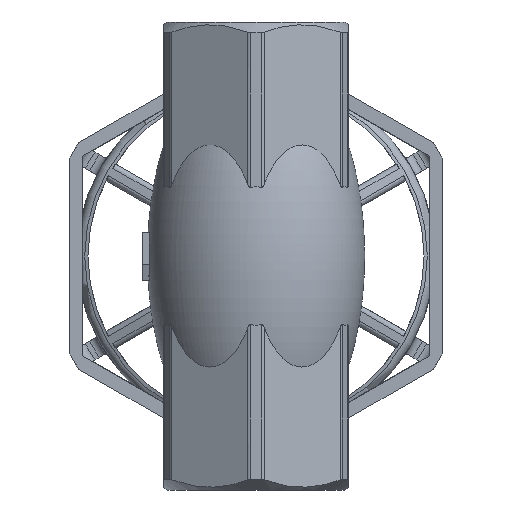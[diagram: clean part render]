
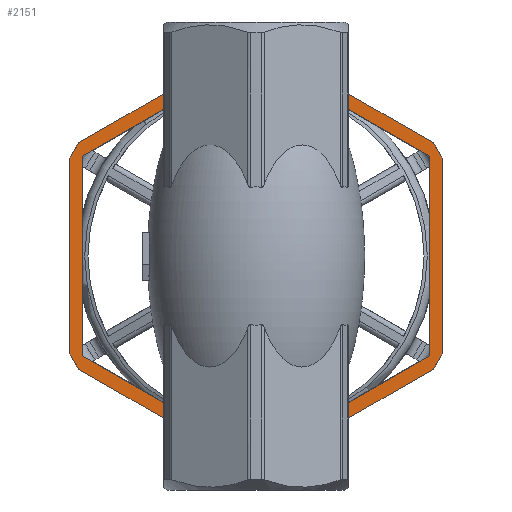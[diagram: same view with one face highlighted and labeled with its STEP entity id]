
A CAD part, front view. The second image highlights one B-rep face of the part: STEP entity #2151.
In plain terms, the highlighted planar face has unit normal (0, -1, 0).
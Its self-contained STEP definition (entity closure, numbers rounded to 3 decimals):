
#2151=ADVANCED_FACE('',(#6577,#6579),#6581,.T.);
#6577=FACE_BOUND('',#6578,.T.);
#6578=EDGE_LOOP('',(#8925,#8926,#8927,#8928,#8929,#8930,#8931,#8932,#8933,#8934,
#8935,#8936));
#6579=FACE_BOUND('',#6580,.T.);
#6580=EDGE_LOOP('',(#8937,#8938,#8939,#8940,#8941,#8942));
#6581=PLANE('',#6582);
#6582=AXIS2_PLACEMENT_3D('',#6583,#6584,#6585);
#6583=CARTESIAN_POINT('',(0.,127.25,-44.5));
#6584=DIRECTION('',(0.,-1.,0.));
#6585=DIRECTION('',(0.,0.,-1.));
#8925=ORIENTED_EDGE('',*,*,#10234,.T.);
#8926=ORIENTED_EDGE('',*,*,#10235,.T.);
#8927=ORIENTED_EDGE('',*,*,#10236,.T.);
#8928=ORIENTED_EDGE('',*,*,#10237,.T.);
#8929=ORIENTED_EDGE('',*,*,#10238,.T.);
#8930=ORIENTED_EDGE('',*,*,#10239,.T.);
#8931=ORIENTED_EDGE('',*,*,#10232,.T.);
#8932=ORIENTED_EDGE('',*,*,#10240,.T.);
#8933=ORIENTED_EDGE('',*,*,#10241,.T.);
#8934=ORIENTED_EDGE('',*,*,#10242,.T.);
#8935=ORIENTED_EDGE('',*,*,#10243,.T.);
#8936=ORIENTED_EDGE('',*,*,#10244,.T.);
#8937=ORIENTED_EDGE('',*,*,#10104,.T.);
#8938=ORIENTED_EDGE('',*,*,#10095,.T.);
#8939=ORIENTED_EDGE('',*,*,#10086,.T.);
#8940=ORIENTED_EDGE('',*,*,#10077,.T.);
#8941=ORIENTED_EDGE('',*,*,#10068,.T.);
#8942=ORIENTED_EDGE('',*,*,#10113,.T.);
#10068=EDGE_CURVE('',#11709,#11707,#11710,.F.);
#10077=EDGE_CURVE('',#11724,#11709,#11725,.F.);
#10086=EDGE_CURVE('',#11739,#11724,#11740,.F.);
#10095=EDGE_CURVE('',#11754,#11739,#11755,.F.);
#10104=EDGE_CURVE('',#11769,#11754,#11770,.F.);
#10113=EDGE_CURVE('',#11707,#11769,#11783,.F.);
#10232=EDGE_CURVE('',#11964,#11962,#11965,.T.);
#10234=EDGE_CURVE('',#11967,#11968,#11969,.T.);
#10235=EDGE_CURVE('',#11968,#11970,#11971,.T.);
#10236=EDGE_CURVE('',#11970,#11972,#11973,.T.);
#10237=EDGE_CURVE('',#11972,#11974,#11975,.T.);
#10238=EDGE_CURVE('',#11974,#11976,#11977,.T.);
#10239=EDGE_CURVE('',#11976,#11964,#11978,.T.);
#10240=EDGE_CURVE('',#11962,#11979,#11980,.T.);
#10241=EDGE_CURVE('',#11979,#11981,#11982,.T.);
#10242=EDGE_CURVE('',#11981,#11983,#11984,.T.);
#10243=EDGE_CURVE('',#11983,#11985,#11986,.T.);
#10244=EDGE_CURVE('',#11985,#11967,#11987,.T.);
#11707=VERTEX_POINT('',#22503);
#11709=VERTEX_POINT('',#22507);
#11710=LINE('',#22508,#22509);
#11724=VERTEX_POINT('',#22542);
#11725=LINE('',#22543,#22544);
#11739=VERTEX_POINT('',#22577);
#11740=LINE('',#22578,#22579);
#11754=VERTEX_POINT('',#22612);
#11755=LINE('',#22613,#22614);
#11769=VERTEX_POINT('',#22647);
#11770=LINE('',#22648,#22649);
#11783=LINE('',#22681,#22682);
#11962=VERTEX_POINT('',#24427);
#11964=VERTEX_POINT('',#24431);
#11965=LINE('',#24432,#24433);
#11967=VERTEX_POINT('',#24438);
#11968=VERTEX_POINT('',#24439);
#11969=LINE('',#24440,#24441);
#11970=VERTEX_POINT('',#24443);
#11971=CIRCLE('',#24444,40.);
#11972=VERTEX_POINT('',#24448);
#11973=LINE('',#24449,#24450);
#11974=VERTEX_POINT('',#24452);
#11975=CIRCLE('',#24453,40.);
#11976=VERTEX_POINT('',#24457);
#11977=LINE('',#24458,#24459);
#11978=CIRCLE('',#24461,40.);
#11979=VERTEX_POINT('',#24465);
#11980=CIRCLE('',#24466,40.);
#11981=VERTEX_POINT('',#24470);
#11982=LINE('',#24471,#24472);
#11983=VERTEX_POINT('',#24474);
#11984=CIRCLE('',#24475,40.);
#11985=VERTEX_POINT('',#24479);
#11986=LINE('',#24480,#24481);
#11987=CIRCLE('',#24483,40.);
#22503=CARTESIAN_POINT('',(0.,127.25,-82.5));
#22507=CARTESIAN_POINT('',(32.909,127.25,-63.5));
#22508=CARTESIAN_POINT('',(0.,127.25,-82.5));
#22509=VECTOR('',#22510,1.);
#22510=DIRECTION('',(0.866,0.,0.5));
#22542=CARTESIAN_POINT('',(32.909,127.25,-25.5));
#22543=CARTESIAN_POINT('',(32.909,127.25,-63.5));
#22544=VECTOR('',#22545,1.);
#22545=DIRECTION('',(0.,0.,1.));
#22577=CARTESIAN_POINT('',(0.,127.25,-6.5));
#22578=CARTESIAN_POINT('',(32.909,127.25,-25.5));
#22579=VECTOR('',#22580,1.);
#22580=DIRECTION('',(-0.866,0.,0.5));
#22612=CARTESIAN_POINT('',(-32.909,127.25,-25.5));
#22613=CARTESIAN_POINT('',(0.,127.25,-6.5));
#22614=VECTOR('',#22615,1.);
#22615=DIRECTION('',(-0.866,0.,-0.5));
#22647=CARTESIAN_POINT('',(-32.909,127.25,-63.5));
#22648=CARTESIAN_POINT('',(-32.909,127.25,-25.5));
#22649=VECTOR('',#22650,1.);
#22650=DIRECTION('',(0.,0.,-1.));
#22681=CARTESIAN_POINT('',(-32.909,127.25,-63.5));
#22682=VECTOR('',#22683,1.);
#22683=DIRECTION('',(0.866,0.,-0.5));
#24427=CARTESIAN_POINT('',(33.705,127.25,-66.041));
#24431=CARTESIAN_POINT('',(1.802,127.25,-84.459));
#24432=CARTESIAN_POINT('',(1.802,127.25,-84.459));
#24433=VECTOR('',#24434,1.);
#24434=DIRECTION('',(0.866,0.,0.5));
#24438=CARTESIAN_POINT('',(-1.802,127.25,-4.541));
#24439=CARTESIAN_POINT('',(-33.705,127.25,-22.959));
#24440=CARTESIAN_POINT('',(-1.802,127.25,-4.541));
#24441=VECTOR('',#24442,1.);
#24442=DIRECTION('',(-0.866,0.,-0.5));
#24443=CARTESIAN_POINT('',(-35.507,127.25,-26.081));
#24444=AXIS2_PLACEMENT_3D('',#24445,#24446,#24447);
#24445=CARTESIAN_POINT('',(0.,127.25,-44.5));
#24446=DIRECTION('',(0.,-1.,0.));
#24447=DIRECTION('',(-0.843,0.,0.539));
#24448=CARTESIAN_POINT('',(-35.507,127.25,-62.919));
#24449=CARTESIAN_POINT('',(-35.507,127.25,-26.081));
#24450=VECTOR('',#24451,1.);
#24451=DIRECTION('',(0.,0.,-1.));
#24452=CARTESIAN_POINT('',(-33.705,127.25,-66.041));
#24453=AXIS2_PLACEMENT_3D('',#24454,#24455,#24456);
#24454=CARTESIAN_POINT('',(0.,127.25,-44.5));
#24455=DIRECTION('',(0.,-1.,0.));
#24456=DIRECTION('',(-0.888,0.,-0.46));
#24457=CARTESIAN_POINT('',(-1.802,127.25,-84.459));
#24458=CARTESIAN_POINT('',(-33.705,127.25,-66.041));
#24459=VECTOR('',#24460,1.);
#24460=DIRECTION('',(0.866,0.,-0.5));
#24461=AXIS2_PLACEMENT_3D('',#24462,#24463,#24464);
#24462=CARTESIAN_POINT('',(0.,127.25,-44.5));
#24463=DIRECTION('',(0.,-1.,0.));
#24464=DIRECTION('',(-0.045,0.,-0.999));
#24465=CARTESIAN_POINT('',(35.507,127.25,-62.919));
#24466=AXIS2_PLACEMENT_3D('',#24467,#24468,#24469);
#24467=CARTESIAN_POINT('',(0.,127.25,-44.5));
#24468=DIRECTION('',(0.,-1.,0.));
#24469=DIRECTION('',(0.843,0.,-0.539));
#24470=CARTESIAN_POINT('',(35.507,127.25,-26.081));
#24471=CARTESIAN_POINT('',(35.507,127.25,-62.919));
#24472=VECTOR('',#24473,1.);
#24473=DIRECTION('',(0.,0.,1.));
#24474=CARTESIAN_POINT('',(33.705,127.25,-22.959));
#24475=AXIS2_PLACEMENT_3D('',#24476,#24477,#24478);
#24476=CARTESIAN_POINT('',(0.,127.25,-44.5));
#24477=DIRECTION('',(0.,-1.,0.));
#24478=DIRECTION('',(0.888,0.,0.46));
#24479=CARTESIAN_POINT('',(1.802,127.25,-4.541));
#24480=CARTESIAN_POINT('',(33.705,127.25,-22.959));
#24481=VECTOR('',#24482,1.);
#24482=DIRECTION('',(-0.866,0.,0.5));
#24483=AXIS2_PLACEMENT_3D('',#24484,#24485,#24486);
#24484=CARTESIAN_POINT('',(0.,127.25,-44.5));
#24485=DIRECTION('',(0.,-1.,0.));
#24486=DIRECTION('',(0.045,0.,0.999));
